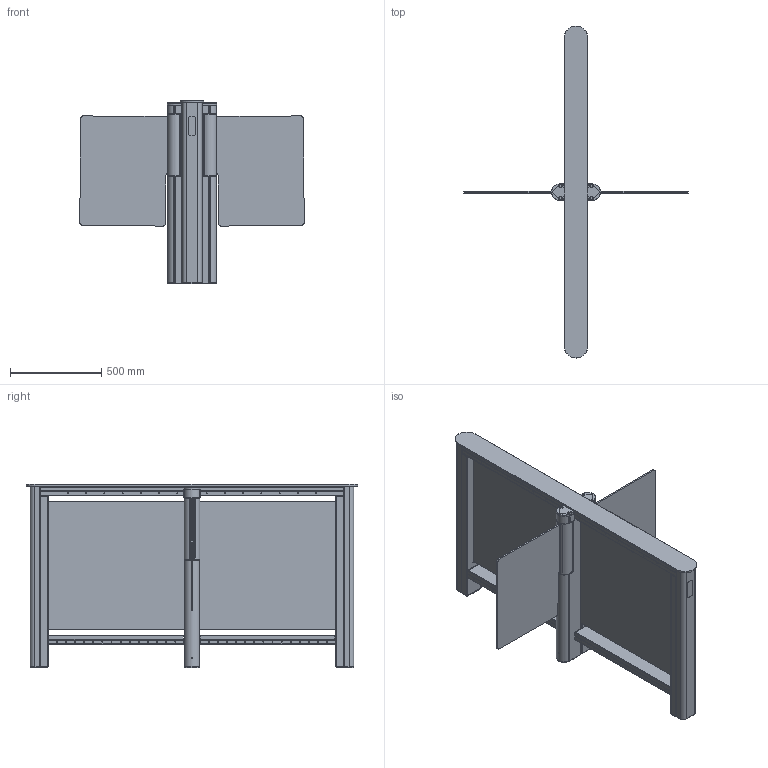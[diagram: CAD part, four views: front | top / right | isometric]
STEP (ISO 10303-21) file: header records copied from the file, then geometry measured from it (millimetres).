
FILE_DESCRIPTION(/* description */ ('Unknown'),/* implementation_level */ '2;1');
FILE_NAME(/* name */ 'ST-01_D_900',/* time_stamp */ '2021-12-23T13:30:54+03:00',/* author */ ('Unknown'),/* organization */ ('Unknown'),/* preprocessor_version */ 'ST-DEVELOPER v18.1',/* originating_system */ 'Solid Edge',/* authorisation */ 'Unknown');
FILE_SCHEMA (('CONFIG_CONTROL_DESIGN'));
Products named in the file (160): ST-01_D; ST-01.1.006.00 砎魤鍱_oa_0; ST-01.1.002.00 栺鍣罻_oa_1; ST-01.1.002.02 砑僔蠂縺; ST-01.1.005.08 扻豵鵨; ST-01.1.031.00 沓劌錪 瀔魤鍱趌oa_2; ST-01.1.036.00 昜闉趌oa_3; BG65x25+PLG52+mufta_oa_4; ST-01.045.00ﾑﾁ ﾊ濱oa_5; ST-01.046.00 ﾊ濱oa_6; ST-01.046.09 Êîæóõ-Ïî óìîë÷àíèþ; ST-01.047.00 扰鍙欙樥燲oa_7; ST-01.047.04 Êðîíøòåéí-Ïî óìîë÷àíèþ; ST-01.760.00 Ïëàòà ýëåêòðîïðèâîäà_oa_8; ST-01.920.00 Êàáåëü ñîåäèíåíèÿ CAN; ST-01.1.004.00捘 昜闉趌oa_9; ST-01.1.004.06 Îïîðà; ST-01.008.00 ﾊ濱oa_10; ST-01.008.05 Êîæóõ; ST-01.008.00 ﾊ濱oa_11; ST-01.900.00 Êàáåëü ñîåäèíåíèÿ  DC; Äæàìïåð MJ-0_13; 淟檍瀖睯貗; ST-01.1.006.00 砎魤鍱_oa_12; ST-01.1.002.00 栺鍣罻_oa_13; ST-01.1.031.00 沓劌錪 瀔魤鍱趌oa_14; ST-01.1.036.00 昜闉趌oa_15; BG65x25+PLG52+mufta_oa_16; ST-01.045.00ﾑﾁ ﾊ濱oa_17; ST-01.046.00 ﾊ濱oa_18; ST-01.047.00 扰鍙欙樥燲oa_19; ST-01.760.00 Ïëàòà ýëåêòðîïðèâîäà_oa_20; ST-01.771.00 Ïëàòà óïðàâëåíèÿ_oa_21; Ïëîùàäêà ñàìîêëåþùàÿñÿ-c õîìóòîì; ST-01.922.00 忺摎錪 嚦鍣膱 CAN 椿; ST-01.1.004.00捘 昜闉趌oa_22; ST-01.008.00 ﾊ濱oa_23; ST-01.008.00 ﾊ濱oa_24; ST-01.921.00 忺摎錪 CAN 椿; RTD-03.715.00 Ïåðåìû÷êà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
Assembly tree (222 placements, depth 5):
  ST-01_D
    ST-01.1.006.00 砎魤鍱_oa_0
      ST-01.1.002.00 栺鍣罻_oa_1
        ST-01.1.002.02 砑僔蠂縺
      ST-01.1.005.08 扻豵鵨
      ST-01.1.031.00 沓劌錪 瀔魤鍱趌oa_2
        ST-01.1.036.00 昜闉趌oa_3
        BG65x25+PLG52+mufta_oa_4
      ST-01.045.00ﾑﾁ ﾊ濱oa_5
        ST-01.046.00 ﾊ濱oa_6
          ST-01.046.09 Êîæóõ-Ïî óìîë÷àíèþ
        ST-01.047.00 扰鍙欙樥燲oa_7
          ST-01.047.04 Êðîíøòåéí-Ïî óìîë÷àíèþ
      ST-01.760.00 Ïëàòà ýëåêòðîïðèâîäà_oa_8
      ST-01.920.00 Êàáåëü ñîåäèíåíèÿ CAN
      ST-01.1.004.00捘 昜闉趌oa_9
        ST-01.1.004.06 Îïîðà
      ST-01.008.00 ﾊ濱oa_10
        ST-01.008.05 Êîæóõ
      ST-01.008.00 ﾊ濱oa_11
        ST-01.008.05 Êîæóõ
      ST-01.900.00 Êàáåëü ñîåäèíåíèÿ  DC
      Äæàìïåð MJ-0_13
      淟檍瀖睯貗  x3
    ST-01.1.006.00 砎魤鍱_oa_12
      ST-01.1.002.00 栺鍣罻_oa_13
        ST-01.1.002.02 砑僔蠂縺
      ST-01.1.005.08 扻豵鵨
      ST-01.1.031.00 沓劌錪 瀔魤鍱趌oa_14
        ST-01.1.036.00 昜闉趌oa_15
        BG65x25+PLG52+mufta_oa_16
      ST-01.045.00ﾑﾁ ﾊ濱oa_17
        ST-01.046.00 ﾊ濱oa_18
          ST-01.046.09 Êîæóõ-Ïî óìîë÷àíèþ
        ST-01.047.00 扰鍙欙樥燲oa_19
          ST-01.047.04 Êðîíøòåéí-Ïî óìîë÷àíèþ
      ST-01.760.00 Ïëàòà ýëåêòðîïðèâîäà_oa_20
      ST-01.771.00 Ïëàòà óïðàâëåíèÿ_oa_21
      Ïëîùàäêà ñàìîêëåþùàÿñÿ-c õîìóòîì
      ST-01.922.00 忺摎錪 嚦鍣膱 CAN 椿
      ST-01.1.004.00捘 昜闉趌oa_22
        ST-01.1.004.06 Îïîðà
      ST-01.008.00 ﾊ濱oa_23
        ST-01.008.05 Êîæóõ
      ST-01.008.00 ﾊ濱oa_24
        ST-01.008.05 Êîæóõ
      ST-01.921.00 忺摎錪 CAN 椿
      淟檍瀖睯貗  x3
      RTD-03.715.00 Ïåðåìû÷êà
      ST-01.923.00 忺摎錪 嚦鍣膱 CAN
      ST-01.905.00 忺摎錪 DC 椿
    ST-01.1.010.00ﾑﾁ ﾊ濱oa_25
      ST-01.740.00 Ïëàòà èíäèêàòîðíîé ñòîéêè_oa_26
      ST-01.1.010.10 Ñòåêëî-Ïî óìîë÷àíèþ
      ST-01.1.011.00 ﾊ濱oa_27
        ST-01.1.011.05 署赅
      ST-01.1.009.00捘 扻豵鵨_oa_28
        ST-01.009.25 Êîæóõ
        ST-01.1.009.07 扻豵鵨
    ST-01.013.00 扻豂塺oa_29
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Bounding box: 1230.37 x 1820 x 1004.7 mm (x, y, z)
Volume: 22289595.3 mm3; surface area: 10681368.4 mm2
Topology: 64 solids, 64 shells, 3543 faces, 9311 edges, 5872 vertices
Faces by surface type: plane 2508, cylinder 831, bspline 164, cone 32, torus 8
Full cylindrical faces by diameter (mm): 3.3 x44, 3.5 x12, 4 x13, 4.2 x5, 5 x104, 5.5 x8, 6 x10, 7 x18, 8 x1, 9 x1, 10 x6, 11 x18, 12 x16, 13.5 x4, 16 x4, 82.099 x1, 87 x2
Entity records: 77018 total; most frequent: CARTESIAN_POINT 17658, ORIENTED_EDGE 11542, DIRECTION 11161, EDGE_CURVE 5771, LINE 4389, VECTOR 4389, VERTEX_POINT 3774, AXIS2_PLACEMENT_3D 3386
